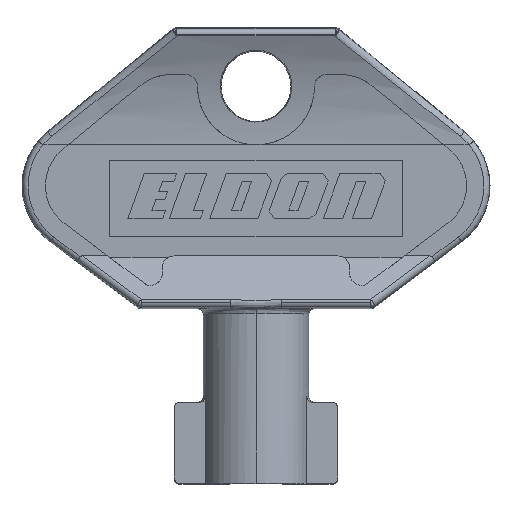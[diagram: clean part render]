
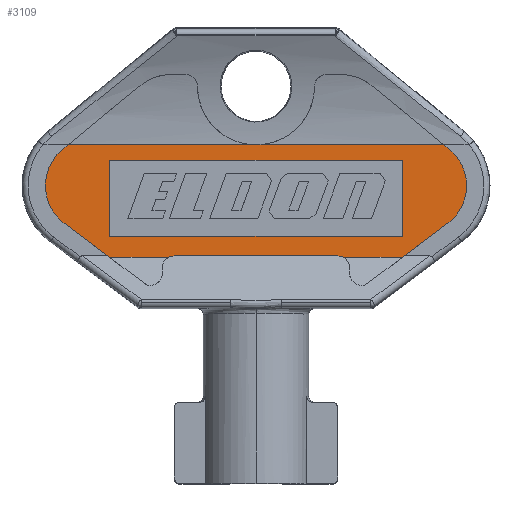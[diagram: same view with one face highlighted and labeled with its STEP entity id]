
A CAD part, top view. The second image highlights one B-rep face of the part: STEP entity #3109.
In plain terms, the highlighted planar face has unit normal (0, 0, 1).
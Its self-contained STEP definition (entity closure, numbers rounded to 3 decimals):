
#52 = DIRECTION ( 'NONE',  ( 0., 0., 1. ) ) ;
#202 = ORIENTED_EDGE ( 'NONE', *, *, #6082, .F. ) ;
#380 = DIRECTION ( 'NONE',  ( -1., 0., 0. ) ) ;
#435 = CARTESIAN_POINT ( 'NONE',  ( -12.5, 36.907, 2.5 ) ) ;
#487 = VERTEX_POINT ( 'NONE', #2618 ) ;
#510 = VECTOR ( 'NONE', #3760, 1000. ) ;
#526 = AXIS2_PLACEMENT_3D ( 'NONE', #3769, #9519, #4588 ) ;
#532 = VERTEX_POINT ( 'NONE', #3523 ) ;
#552 = VECTOR ( 'NONE', #6456, 1000. ) ;
#591 = AXIS2_PLACEMENT_3D ( 'NONE', #3975, #9764, #4818 ) ;
#619 = VERTEX_POINT ( 'NONE', #5271 ) ;
#691 = VECTOR ( 'NONE', #4898, 1000. ) ;
#698 = VERTEX_POINT ( 'NONE', #9549 ) ;
#702 = CIRCLE ( 'NONE', #10164, 4. ) ;
#704 = ORIENTED_EDGE ( 'NONE', *, *, #6900, .T. ) ;
#898 = FACE_BOUND ( 'NONE', #5014, .T. ) ;
#946 = CARTESIAN_POINT ( 'NONE',  ( 71.078, 43.407, 2.5 ) ) ;
#980 = CARTESIAN_POINT ( 'NONE',  ( 14.8, 36.807, 2.5 ) ) ;
#1047 = CARTESIAN_POINT ( 'NONE',  ( 71.078, 35.086, 2.5 ) ) ;
#1140 = AXIS2_PLACEMENT_3D ( 'NONE', #6741, #1862, #7559 ) ;
#1181 = EDGE_CURVE ( 'NONE', #6167, #4499, #5444, .T. ) ;
#1219 = CARTESIAN_POINT ( 'NONE',  ( -16.04, 44.707, 2.5 ) ) ;
#1409 = CARTESIAN_POINT ( 'NONE',  ( -14.8, 36.807, 2.5 ) ) ;
#1513 = ORIENTED_EDGE ( 'NONE', *, *, #2924, .T. ) ;
#1560 = CARTESIAN_POINT ( 'NONE',  ( 7., 35.207, 2.5 ) ) ;
#1657 = ORIENTED_EDGE ( 'NONE', *, *, #3244, .T. ) ;
#1725 = CARTESIAN_POINT ( 'NONE',  ( 0., 44.707, 2.5 ) ) ;
#1802 = EDGE_CURVE ( 'NONE', #619, #532, #6850, .T. ) ;
#1820 = LINE ( 'NONE', #3344, #4227 ) ;
#1862 = DIRECTION ( 'NONE',  ( 0., 0., 1. ) ) ;
#1941 = ORIENTED_EDGE ( 'NONE', *, *, #1181, .T. ) ;
#1949 = DIRECTION ( 'NONE',  ( -1., 0., 0. ) ) ;
#2130 = ORIENTED_EDGE ( 'NONE', *, *, #6366, .T. ) ;
#2210 = DIRECTION ( 'NONE',  ( -0.773, -0.634, 0. ) ) ;
#2245 = EDGE_CURVE ( 'NONE', #6618, #9966, #2991, .T. ) ;
#2275 = DIRECTION ( 'NONE',  ( 0.8, -0.6, 0. ) ) ;
#2358 = LINE ( 'NONE', #7393, #5926 ) ;
#2612 = DIRECTION ( 'NONE',  ( 0.8, 0.6, 0. ) ) ;
#2618 = CARTESIAN_POINT ( 'NONE',  ( -16.4, 38.007, 2.5 ) ) ;
#2622 = LINE ( 'NONE', #6106, #9176 ) ;
#2638 = LINE ( 'NONE', #6817, #8917 ) ;
#2762 = CARTESIAN_POINT ( 'NONE',  ( 12.5, 43.407, 2.5 ) ) ;
#2829 = ORIENTED_EDGE ( 'NONE', *, *, #5020, .T. ) ;
#2924 = EDGE_CURVE ( 'NONE', #5987, #6167, #9243, .T. ) ;
#2927 = CARTESIAN_POINT ( 'NONE',  ( 71.078, 44.707, 2.5 ) ) ;
#2991 = LINE ( 'NONE', #7279, #552 ) ;
#3095 = VECTOR ( 'NONE', #5506, 1000. ) ;
#3098 = DIRECTION ( 'NONE',  ( 0., 0., -1. ) ) ;
#3109 = ADVANCED_FACE ( 'NONE', ( #898, #3323 ), #8904, .F. ) ;
#3244 = EDGE_CURVE ( 'NONE', #5627, #8688, #1820, .T. ) ;
#3323 = FACE_OUTER_BOUND ( 'NONE', #9453, .T. ) ;
#3344 = CARTESIAN_POINT ( 'NONE',  ( -7., 35.207, 2.5 ) ) ;
#3523 = CARTESIAN_POINT ( 'NONE',  ( -12.506, 35.086, 2.5 ) ) ;
#3535 = VECTOR ( 'NONE', #2210, 1000. ) ;
#3547 = CIRCLE ( 'NONE', #7280, 4. ) ;
#3580 = ORIENTED_EDGE ( 'NONE', *, *, #9540, .T. ) ;
#3716 = ORIENTED_EDGE ( 'NONE', *, *, #7916, .T. ) ;
#3760 = DIRECTION ( 'NONE',  ( -1., 0., 0. ) ) ;
#3769 = CARTESIAN_POINT ( 'NONE',  ( 7., 34.207, 2.5 ) ) ;
#3853 = VERTEX_POINT ( 'NONE', #2762 ) ;
#3860 = CARTESIAN_POINT ( 'NONE',  ( 71.078, 44.707, 2.5 ) ) ;
#3972 = EDGE_CURVE ( 'NONE', #8688, #5789, #5106, .T. ) ;
#3975 = CARTESIAN_POINT ( 'NONE',  ( 71.078, 44.707, 2.5 ) ) ;
#4117 = DIRECTION ( 'NONE',  ( -0.773, 0.634, 0. ) ) ;
#4227 = VECTOR ( 'NONE', #6600, 1000. ) ;
#4396 = ORIENTED_EDGE ( 'NONE', *, *, #5776, .T. ) ;
#4499 = VERTEX_POINT ( 'NONE', #7439 ) ;
#4553 = EDGE_CURVE ( 'NONE', #9966, #3853, #7911, .T. ) ;
#4588 = DIRECTION ( 'NONE',  ( 0., 1., 0. ) ) ;
#4763 = CARTESIAN_POINT ( 'NONE',  ( 14., 41.207, 2.5 ) ) ;
#4818 = DIRECTION ( 'NONE',  ( 0., 1., 0. ) ) ;
#4898 = DIRECTION ( 'NONE',  ( 0., -1., 0. ) ) ;
#4908 = LINE ( 'NONE', #980, #6568 ) ;
#4971 = CARTESIAN_POINT ( 'NONE',  ( -14., 41.207, 2.5 ) ) ;
#5014 = EDGE_LOOP ( 'NONE', ( #9286, #8690, #7453, #704 ) ) ;
#5020 = EDGE_CURVE ( 'NONE', #4499, #487, #3547, .T. ) ;
#5106 = CIRCLE ( 'NONE', #526, 1. ) ;
#5172 = CARTESIAN_POINT ( 'NONE',  ( 16.04, 44.707, 2.5 ) ) ;
#5271 = CARTESIAN_POINT ( 'NONE',  ( -7.476, 35.086, 2.5 ) ) ;
#5391 = ORIENTED_EDGE ( 'NONE', *, *, #1802, .F. ) ;
#5444 = LINE ( 'NONE', #6264, #3535 ) ;
#5506 = DIRECTION ( 'NONE',  ( -1., 0., 0. ) ) ;
#5536 = VERTEX_POINT ( 'NONE', #8480 ) ;
#5578 = AXIS2_PLACEMENT_3D ( 'NONE', #7995, #3098, #8835 ) ;
#5593 = DIRECTION ( 'NONE',  ( 0., 1., 0. ) ) ;
#5603 = VERTEX_POINT ( 'NONE', #9395 ) ;
#5627 = VERTEX_POINT ( 'NONE', #10229 ) ;
#5724 = VECTOR ( 'NONE', #6695, 1000. ) ;
#5731 = CARTESIAN_POINT ( 'NONE',  ( 12.5, 44.707, 2.5 ) ) ;
#5776 = EDGE_CURVE ( 'NONE', #619, #5627, #9591, .T. ) ;
#5788 = DIRECTION ( 'NONE',  ( 0., 1., 0. ) ) ;
#5789 = VERTEX_POINT ( 'NONE', #6392 ) ;
#5926 = VECTOR ( 'NONE', #4117, 1000. ) ;
#5987 = VERTEX_POINT ( 'NONE', #1725 ) ;
#6081 = VERTEX_POINT ( 'NONE', #5172 ) ;
#6082 = EDGE_CURVE ( 'NONE', #7573, #5789, #2638, .T. ) ;
#6105 = VERTEX_POINT ( 'NONE', #8469 ) ;
#6106 = CARTESIAN_POINT ( 'NONE',  ( 71.078, 36.907, 2.5 ) ) ;
#6167 = VERTEX_POINT ( 'NONE', #1219 ) ;
#6264 = CARTESIAN_POINT ( 'NONE',  ( -9.83, 49.8, 2.5 ) ) ;
#6366 = EDGE_CURVE ( 'NONE', #5536, #6105, #702, .T. ) ;
#6392 = CARTESIAN_POINT ( 'NONE',  ( 7.476, 35.086, 2.5 ) ) ;
#6435 = CIRCLE ( 'NONE', #1140, 4. ) ;
#6456 = DIRECTION ( 'NONE',  ( 0., 1., 0. ) ) ;
#6568 = VECTOR ( 'NONE', #2612, 1000. ) ;
#6600 = DIRECTION ( 'NONE',  ( 1., 0., 0. ) ) ;
#6615 = ORIENTED_EDGE ( 'NONE', *, *, #8584, .T. ) ;
#6618 = VERTEX_POINT ( 'NONE', #435 ) ;
#6695 = DIRECTION ( 'NONE',  ( 1., 0., 0. ) ) ;
#6741 = CARTESIAN_POINT ( 'NONE',  ( 14., 41.207, 2.5 ) ) ;
#6817 = CARTESIAN_POINT ( 'NONE',  ( 71.078, 35.086, 2.5 ) ) ;
#6850 = LINE ( 'NONE', #1047, #8777 ) ;
#6900 = EDGE_CURVE ( 'NONE', #3853, #5603, #7478, .T. ) ;
#6963 = VECTOR ( 'NONE', #2275, 1000. ) ;
#7038 = ORIENTED_EDGE ( 'NONE', *, *, #9184, .T. ) ;
#7190 = LINE ( 'NONE', #3860, #3095 ) ;
#7272 = ORIENTED_EDGE ( 'NONE', *, *, #8339, .T. ) ;
#7279 = CARTESIAN_POINT ( 'NONE',  ( -12.5, 44.707, 2.5 ) ) ;
#7280 = AXIS2_PLACEMENT_3D ( 'NONE', #4971, #52, #5788 ) ;
#7393 = CARTESIAN_POINT ( 'NONE',  ( 16.536, 44.3, 2.5 ) ) ;
#7439 = CARTESIAN_POINT ( 'NONE',  ( -16.536, 44.3, 2.5 ) ) ;
#7453 = ORIENTED_EDGE ( 'NONE', *, *, #4553, .T. ) ;
#7478 = LINE ( 'NONE', #5731, #691 ) ;
#7559 = DIRECTION ( 'NONE',  ( 0., 1., 0. ) ) ;
#7564 = DIRECTION ( 'NONE',  ( -1., 0., 0. ) ) ;
#7573 = VERTEX_POINT ( 'NONE', #7649 ) ;
#7649 = CARTESIAN_POINT ( 'NONE',  ( 12.506, 35.086, 2.5 ) ) ;
#7911 = LINE ( 'NONE', #946, #5724 ) ;
#7916 = EDGE_CURVE ( 'NONE', #698, #5536, #6435, .T. ) ;
#7995 = CARTESIAN_POINT ( 'NONE',  ( -7., 34.207, 2.5 ) ) ;
#8339 = EDGE_CURVE ( 'NONE', #7573, #698, #4908, .T. ) ;
#8469 = CARTESIAN_POINT ( 'NONE',  ( 16.536, 44.3, 2.5 ) ) ;
#8480 = CARTESIAN_POINT ( 'NONE',  ( 18., 41.207, 2.5 ) ) ;
#8547 = CARTESIAN_POINT ( 'NONE',  ( -12.5, 43.407, 2.5 ) ) ;
#8584 = EDGE_CURVE ( 'NONE', #487, #532, #9158, .T. ) ;
#8688 = VERTEX_POINT ( 'NONE', #1560 ) ;
#8690 = ORIENTED_EDGE ( 'NONE', *, *, #2245, .T. ) ;
#8777 = VECTOR ( 'NONE', #7564, 1000. ) ;
#8835 = DIRECTION ( 'NONE',  ( 0., 1., 0. ) ) ;
#8904 = PLANE ( 'NONE',  #591 ) ;
#8917 = VECTOR ( 'NONE', #1949, 1000. ) ;
#9140 = ORIENTED_EDGE ( 'NONE', *, *, #3972, .T. ) ;
#9158 = LINE ( 'NONE', #1409, #6963 ) ;
#9176 = VECTOR ( 'NONE', #380, 1000. ) ;
#9184 = EDGE_CURVE ( 'NONE', #6105, #6081, #2358, .T. ) ;
#9243 = LINE ( 'NONE', #2927, #510 ) ;
#9286 = ORIENTED_EDGE ( 'NONE', *, *, #10007, .T. ) ;
#9395 = CARTESIAN_POINT ( 'NONE',  ( 12.5, 36.907, 2.5 ) ) ;
#9453 = EDGE_LOOP ( 'NONE', ( #3716, #2130, #7038, #3580, #1513, #1941, #2829, #6615, #5391, #4396, #1657, #9140, #202, #7272 ) ) ;
#9519 = DIRECTION ( 'NONE',  ( 0., 0., -1. ) ) ;
#9540 = EDGE_CURVE ( 'NONE', #6081, #5987, #7190, .T. ) ;
#9549 = CARTESIAN_POINT ( 'NONE',  ( 16.4, 38.007, 2.5 ) ) ;
#9591 = CIRCLE ( 'NONE', #5578, 1. ) ;
#9764 = DIRECTION ( 'NONE',  ( 0., 0., -1. ) ) ;
#9966 = VERTEX_POINT ( 'NONE', #8547 ) ;
#10007 = EDGE_CURVE ( 'NONE', #5603, #6618, #2622, .T. ) ;
#10164 = AXIS2_PLACEMENT_3D ( 'NONE', #4763, #10533, #5593 ) ;
#10229 = CARTESIAN_POINT ( 'NONE',  ( -7., 35.207, 2.5 ) ) ;
#10533 = DIRECTION ( 'NONE',  ( 0., 0., 1. ) ) ;
